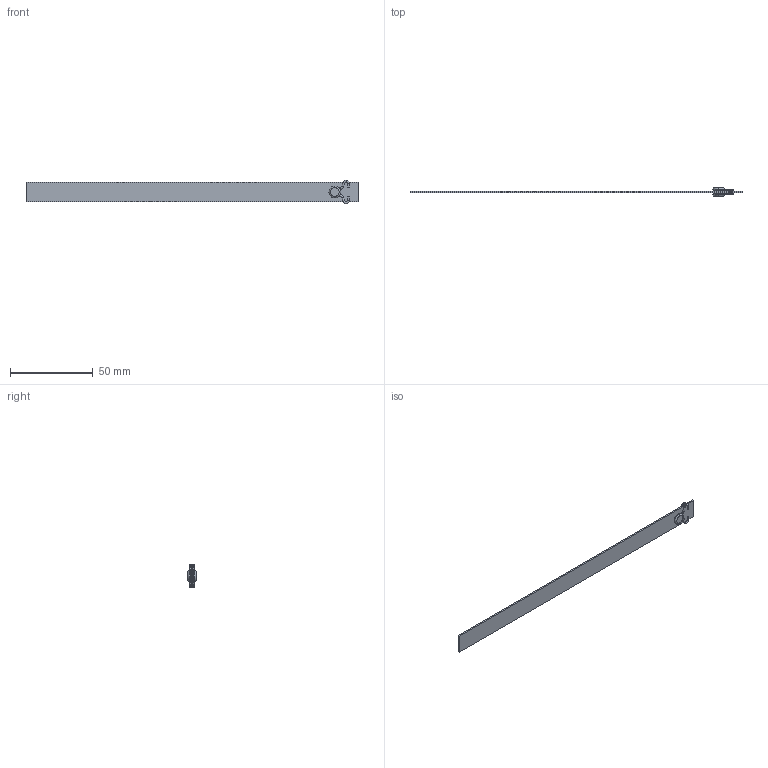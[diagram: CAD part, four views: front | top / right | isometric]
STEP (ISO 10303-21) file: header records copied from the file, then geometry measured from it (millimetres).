
FILE_DESCRIPTION (( 'STEP AP203' ), '1' );
FILE_NAME ('RLA-12x200.STEP', '2015-12-10T15:51:59', ( 'Balzi' ), ( '' ), 'SwSTEP 2.0', 'SolidWorks 2015', '' );
FILE_SCHEMA (( 'CONFIG_CONTROL_DESIGN' ));
Length unit declared in the file: millimetre
Products named in the file (1): RLA-12x200
Bounding box: 200 x 5 x 13.99 mm (x, y, z)
Volume: 2483.3 mm3; surface area: 5557.5 mm2
Topology: 5 solids, 5 shells, 84 faces, 162 edges, 88 vertices
Faces by surface type: torus 40, cylinder 30, plane 14
Entity records: 2199 total; most frequent: DIRECTION 452, CARTESIAN_POINT 335, ORIENTED_EDGE 324, AXIS2_PLACEMENT_3D 205, EDGE_CURVE 162, CIRCLE 120, VERTEX_POINT 88, EDGE_LOOP 86
